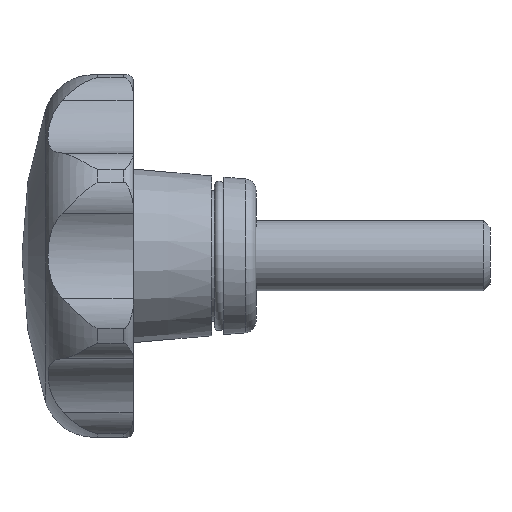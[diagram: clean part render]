
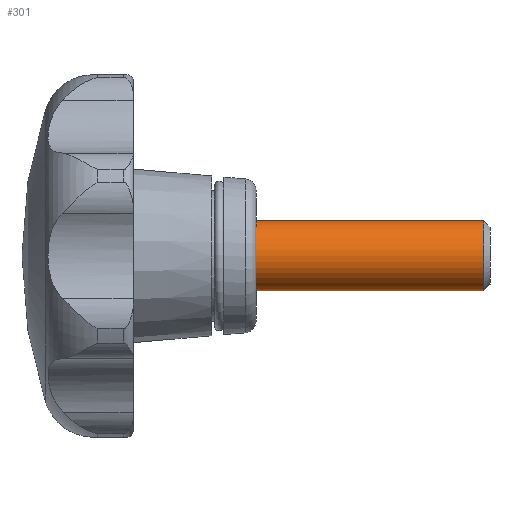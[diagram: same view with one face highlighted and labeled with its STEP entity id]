
A CAD part, left-side view. The second image highlights one B-rep face of the part: STEP entity #301.
In plain terms, the highlighted cylindrical face has radius 6 mm (diameter 12 mm), a full revolution.
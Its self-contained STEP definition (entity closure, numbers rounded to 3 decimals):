
#301 = ADVANCED_FACE( '', ( #647, #648 ), #649, .T. );
#647 = FACE_OUTER_BOUND( '', #1044, .T. );
#648 = FACE_OUTER_BOUND( '', #1045, .T. );
#649 = CYLINDRICAL_SURFACE( '', #1046, 6. );
#1044 = EDGE_LOOP( '', ( #2193 ) );
#1045 = EDGE_LOOP( '', ( #2194 ) );
#1046 = AXIS2_PLACEMENT_3D( '', #2195, #2196, #2197 );
#2193 = ORIENTED_EDGE( '', *, *, #2823, .F. );
#2194 = ORIENTED_EDGE( '', *, *, #2767, .T. );
#2195 = CARTESIAN_POINT( '', ( 0., -40., 0. ) );
#2196 = DIRECTION( '', ( 0., 1., 0. ) );
#2197 = DIRECTION( '', ( 0., 0., -1. ) );
#2767 = EDGE_CURVE( '', #3401, #3401, #3402, .T. );
#2823 = EDGE_CURVE( '', #3475, #3475, #3476, .T. );
#3401 = VERTEX_POINT( '', #5315 );
#3402 = CIRCLE( '', #5316, 6. );
#3475 = VERTEX_POINT( '', #5422 );
#3476 = CIRCLE( '', #5423, 6. );
#5315 = CARTESIAN_POINT( '', ( 0., 0., -6. ) );
#5316 = AXIS2_PLACEMENT_3D( '', #6094, #6095, #6096 );
#5422 = CARTESIAN_POINT( '', ( 0., -38.927, -6. ) );
#5423 = AXIS2_PLACEMENT_3D( '', #6218, #6219, #6220 );
#6094 = CARTESIAN_POINT( '', ( 0., 0., 0. ) );
#6095 = DIRECTION( '', ( 0., -1., 0. ) );
#6096 = DIRECTION( '', ( 0., 0., -1. ) );
#6218 = CARTESIAN_POINT( '', ( 0., -38.927, 0. ) );
#6219 = DIRECTION( '', ( 0., -1., 0. ) );
#6220 = DIRECTION( '', ( 0., 0., -1. ) );
